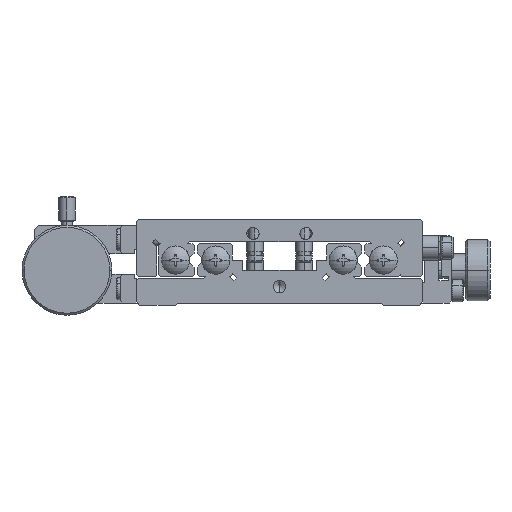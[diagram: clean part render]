
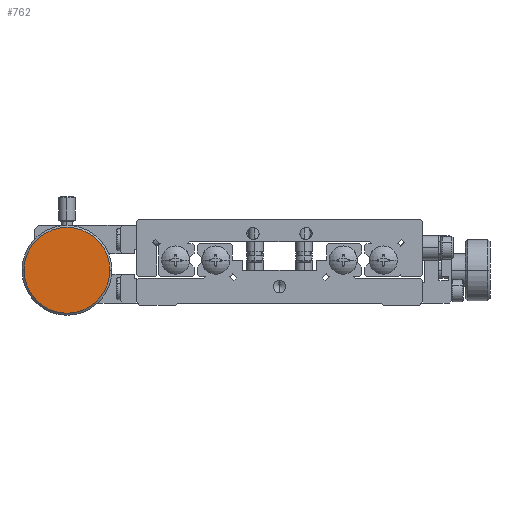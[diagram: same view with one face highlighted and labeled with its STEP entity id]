
A CAD part, front view. The second image highlights one B-rep face of the part: STEP entity #762.
In plain terms, the highlighted planar face has unit normal (0, -1, 0).
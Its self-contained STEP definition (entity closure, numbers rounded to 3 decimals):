
#762 = ADVANCED_FACE ( 'NONE', ( #51797 ), #51796, .F. ) ;
#763 = EDGE_LOOP ( 'NONE', ( #764, #765 ) ) ;
#764 = ORIENTED_EDGE ( 'NONE', *, *, #44012, .F. ) ;
#765 = ORIENTED_EDGE ( 'NONE', *, *, #766, .F. ) ;
#766 = EDGE_CURVE ( 'NONE', #44014, #44013, #51789, .T. ) ;
#24085 = CARTESIAN_POINT ( 'NONE',  ( -62.5, -76., 8.5 ) ) ;
#24086 = CARTESIAN_POINT ( 'NONE',  ( -41.5, -76., 8.5 ) ) ;
#24087 = DIRECTION ( 'NONE',  ( 1., 0., 0. ) ) ;
#24088 = DIRECTION ( 'NONE',  ( 0., 1., 0. ) ) ;
#24089 = CARTESIAN_POINT ( 'NONE',  ( -52., -76., 8.5 ) ) ;
#24090 = AXIS2_PLACEMENT_3D ( 'NONE', #24089, #24088, #24087 ) ;
#24096 = CIRCLE ( 'NONE', #24090, 10.5 ) ;
#44012 = EDGE_CURVE ( 'NONE', #44013, #44014, #24096, .T. ) ;
#44013 = VERTEX_POINT ( 'NONE', #24086 ) ;
#44014 = VERTEX_POINT ( 'NONE', #24085 ) ;
#51786 = DIRECTION ( 'NONE',  ( 1., 0., 0. ) ) ;
#51787 = DIRECTION ( 'NONE',  ( 0., 1., 0. ) ) ;
#51788 = AXIS2_PLACEMENT_3D ( 'NONE', #51793, #51787, #51786 ) ;
#51789 = CIRCLE ( 'NONE', #51788, 10.5 ) ;
#51790 = DIRECTION ( 'NONE',  ( 1., 0., 0. ) ) ;
#51791 = DIRECTION ( 'NONE',  ( 0., 1., 0. ) ) ;
#51792 = AXIS2_PLACEMENT_3D ( 'NONE', #51795, #51791, #51790 ) ;
#51793 = CARTESIAN_POINT ( 'NONE',  ( -52., -76., 8.5 ) ) ;
#51795 = CARTESIAN_POINT ( 'NONE',  ( -52., -76., 8.5 ) ) ;
#51796 = PLANE ( 'NONE',  #51792 ) ;
#51797 = FACE_OUTER_BOUND ( 'NONE', #763, .T. ) ;
